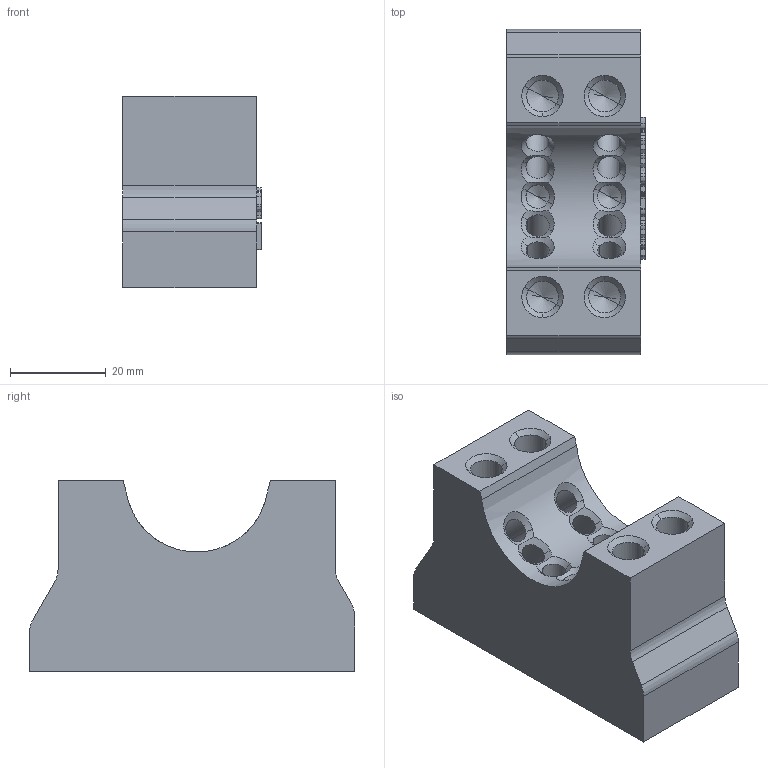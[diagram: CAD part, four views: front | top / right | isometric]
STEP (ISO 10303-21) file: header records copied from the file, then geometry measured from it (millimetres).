
FILE_DESCRIPTION(('CATIA V5 STEP Exchange'),'2;1');
FILE_NAME('C:\Users\User\Desktop\stp\EGT217.stp','2017-07-21T01:37:04+00:00',('none'),('none'),'CATIA Version 5 Release 21 GA (IN-10)','CATIA V5 STEP AP203','none');
FILE_SCHEMA(('CONFIG_CONTROL_DESIGN'));
Length unit declared in the file: millimetre
Products named in the file (1): EGT217
Bounding box: 29 x 68 x 40 mm (x, y, z)
Volume: 52459.8 mm3; surface area: 15362.5 mm2
Topology: 1 solids, 1 shells, 722 faces, 2058 edges, 1330 vertices
Faces by surface type: plane 499, extrusion 100, cone 60, cylinder 43, bspline 20
Entity records: 25225 total; most frequent: CARTESIAN_POINT 7410, ORIENTED_EDGE 4044, DIRECTION 2953, EDGE_CURVE 2022, VECTOR 1740, LINE 1640, VERTEX_POINT 1330, EDGE_LOOP 750
